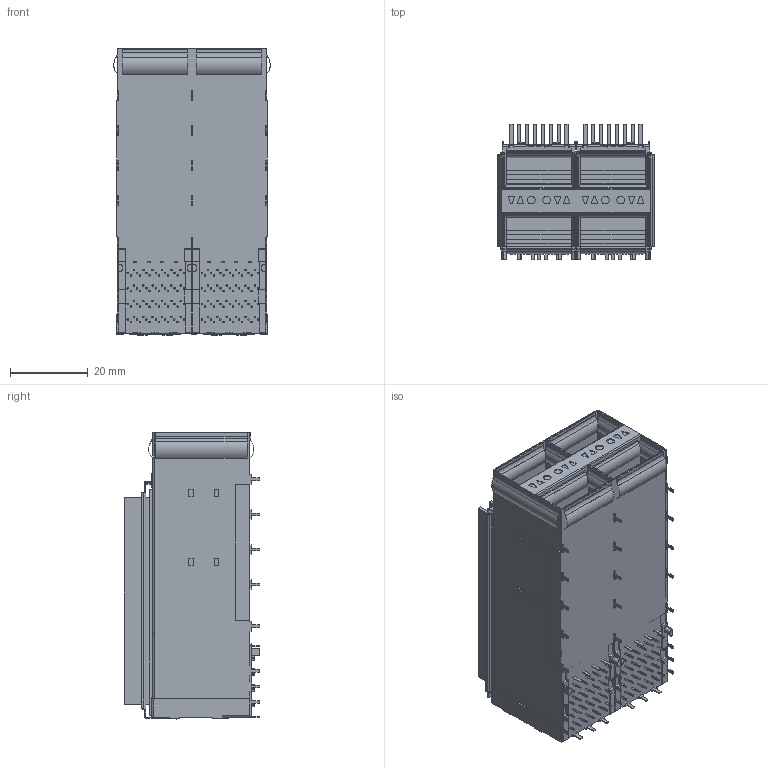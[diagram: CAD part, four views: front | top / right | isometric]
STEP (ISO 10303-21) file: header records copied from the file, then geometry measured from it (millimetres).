
FILE_DESCRIPTION(/* description */ (''),/* implementation_level */ '2;1');
FILE_NAME(/* name */ 'QSFP28 2X2 散热器32.7 双导光柱左下上右下上 中间2个小圆孔 3D.stp',/* time_stamp */ '2026-08-29T14:23:52+08:00',/* author */ (''),/* organization */ (''),/* preprocessor_version */ 'ST-DEVELOPER v16.7',/* originating_system */ 'SIEMENS PLM Software NX 1847',/* authorisation */ '');
FILE_SCHEMA (('AUTOMOTIVE_DESIGN { 1 0 10303 214 3 1 1 1 }'));
Products named in the file (1): Admi29F470BBiegq
Bounding box: 40.26 x 34.75 x 73.44 mm (x, y, z)
Volume: 43120.1 mm3; surface area: 42376.2 mm2
Topology: 1 solids, 1 shells, 2267 faces, 5765 edges, 3720 vertices
Faces by surface type: plane 1343, cylinder 887, bspline 24, torus 12, sphere 1
Entity records: 69194 total; most frequent: CARTESIAN_POINT 12800, DIRECTION 11914, ORIENTED_EDGE 11528, EDGE_CURVE 5764, AXIS2_PLACEMENT_3D 4034, LINE 3846, VECTOR 3846, VERTEX_POINT 3720
